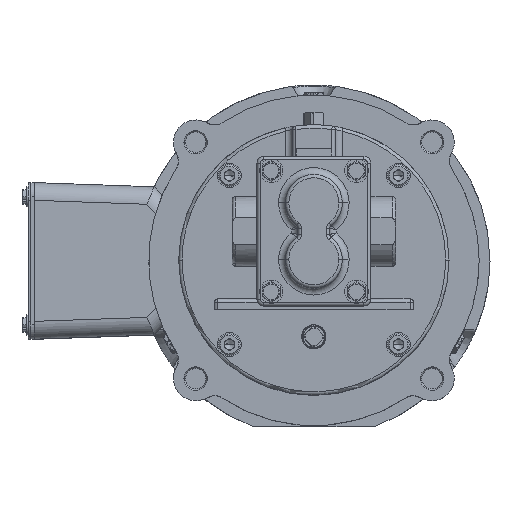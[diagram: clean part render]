
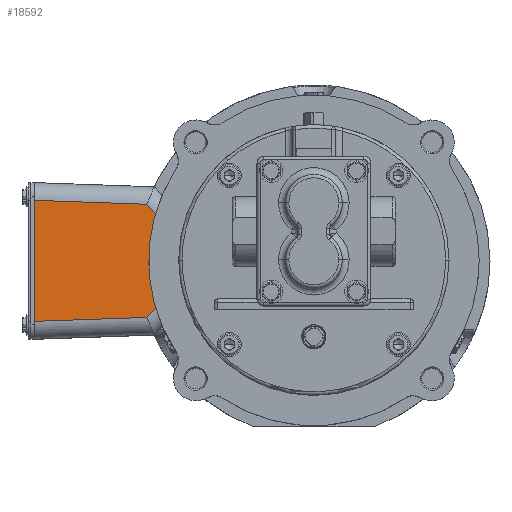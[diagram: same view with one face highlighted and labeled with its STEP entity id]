
A CAD part, top view. The second image highlights one B-rep face of the part: STEP entity #18592.
In plain terms, the highlighted planar face has unit normal (0.035, 0, 0.999).
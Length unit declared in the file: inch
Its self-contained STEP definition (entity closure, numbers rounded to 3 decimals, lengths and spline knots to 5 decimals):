
#241 = ORIENTED_EDGE ( 'NONE', *, *, #49727, .F. ) ;
#703 = DIRECTION ( 'NONE',  ( 0.999, 0.035, -0.035 ) ) ;
#2924 = EDGE_CURVE ( 'NONE', #6410, #6539, #29937, .T. ) ;
#3281 = CARTESIAN_POINT ( 'NONE',  ( -7.34757, -0.06021, -8.80359 ) ) ;
#4470 = ORIENTED_EDGE ( 'NONE', *, *, #23772, .T. ) ;
#5850 = CARTESIAN_POINT ( 'NONE',  ( -9.32475, -0.12925, -8.73455 ) ) ;
#6410 = VERTEX_POINT ( 'NONE', #36341 ) ;
#6539 = VERTEX_POINT ( 'NONE', #3281 ) ;
#8064 = CARTESIAN_POINT ( 'NONE',  ( -7.35487, 0.64745, -8.80334 ) ) ;
#9000 = VECTOR ( 'NONE', #703, 39.37008 ) ;
#10021 = LINE ( 'NONE', #52716, #44433 ) ;
#10230 = VERTEX_POINT ( 'NONE', #41067 ) ;
#11948 = EDGE_CURVE ( 'NONE', #22461, #10230, #29735, .T. ) ;
#14627 = EDGE_LOOP ( 'NONE', ( #17658, #241, #20083, #45761, #31308, #4470 ) ) ;
#16466 = DIRECTION ( 'NONE',  ( 0.999, 0., -0.035 ) ) ;
#17658 = ORIENTED_EDGE ( 'NONE', *, *, #2924, .T. ) ;
#18592 = ADVANCED_FACE ( 'NONE', ( #35734 ), #21591, .T. ) ;
#19648 = VECTOR ( 'NONE', #19822, 39.37008 ) ;
#19822 = DIRECTION ( 'NONE',  ( 0., -1., 0. ) ) ;
#20083 = ORIENTED_EDGE ( 'NONE', *, *, #41043, .F. ) ;
#21591 = PLANE ( 'NONE',  #59090 ) ;
#22461 = VERTEX_POINT ( 'NONE', #63144 ) ;
#22804 = VERTEX_POINT ( 'NONE', #52410 ) ;
#23772 = EDGE_CURVE ( 'NONE', #10230, #6410, #30424, .T. ) ;
#24923 = DIRECTION ( 'NONE',  ( -0.999, 0.035, 0.035 ) ) ;
#29606 = DIRECTION ( 'NONE',  ( -0.707, 0.707, 0.025 ) ) ;
#29735 = LINE ( 'NONE', #49295, #47118 ) ;
#29937 = LINE ( 'NONE', #5850, #9000 ) ;
#30424 = LINE ( 'NONE', #55095, #19648 ) ;
#31308 = ORIENTED_EDGE ( 'NONE', *, *, #11948, .T. ) ;
#32140 = CARTESIAN_POINT ( 'NONE',  ( -7.18809, 0.09927, -8.80916 ) ) ;
#32159 = CARTESIAN_POINT ( 'NONE',  ( -7.35487, 1.22043, -8.80334 ) ) ;
#35734 = FACE_OUTER_BOUND ( 'NONE', #14627, .T. ) ;
#36341 = CARTESIAN_POINT ( 'NONE',  ( -9.32475, -0.12925, -8.73455 ) ) ;
#36631 = CARTESIAN_POINT ( 'NONE',  ( -7.18809, 0.09927, -8.80916 ) ) ;
#36756 = LINE ( 'NONE', #42510, #43208 ) ;
#41043 = EDGE_CURVE ( 'NONE', #22804, #45426, #58244, .T. ) ;
#41067 = CARTESIAN_POINT ( 'NONE',  ( -9.32475, 1.99713, -8.73455 ) ) ;
#41478 = CARTESIAN_POINT ( 'NONE',  ( -9.32475, 2.30894, -8.73455 ) ) ;
#42510 = CARTESIAN_POINT ( 'NONE',  ( -7.21727, 0.07009, -8.80814 ) ) ;
#43208 = VECTOR ( 'NONE', #46384, 39.37008 ) ;
#44433 = VECTOR ( 'NONE', #29606, 39.37008 ) ;
#45426 = VERTEX_POINT ( 'NONE', #32140 ) ;
#45761 = ORIENTED_EDGE ( 'NONE', *, *, #54043, .T. ) ;
#46384 = DIRECTION ( 'NONE',  ( -0.707, -0.707, 0.025 ) ) ;
#47118 = VECTOR ( 'NONE', #24923, 39.37008 ) ;
#49295 = CARTESIAN_POINT ( 'NONE',  ( -7.34757, 1.92808, -8.80359 ) ) ;
#49727 = EDGE_CURVE ( 'NONE', #45426, #6539, #36756, .T. ) ;
#52410 = CARTESIAN_POINT ( 'NONE',  ( -7.18809, 1.7686, -8.80916 ) ) ;
#52716 = CARTESIAN_POINT ( 'NONE',  ( -7.18809, 1.7686, -8.80916 ) ) ;
#54043 = EDGE_CURVE ( 'NONE', #22804, #22461, #10021, .T. ) ;
#55095 = CARTESIAN_POINT ( 'NONE',  ( -9.32475, 2.30894, -8.73455 ) ) ;
#55277 = DIRECTION ( 'NONE',  ( 0.035, 0., 0.999 ) ) ;
#55569 = CARTESIAN_POINT ( 'NONE',  ( -7.18809, 1.7686, -8.80916 ) ) ;
#58244 =( BOUNDED_CURVE ( )  B_SPLINE_CURVE ( 3, ( #55569, #32159, #8064, #36631 ),
 .UNSPECIFIED., .F., .T. ) 
 B_SPLINE_CURVE_WITH_KNOTS ( ( 4, 4 ),
 ( 2.84624, 3.43694 ),
 .UNSPECIFIED. ) 
 CURVE ( )  GEOMETRIC_REPRESENTATION_ITEM ( )  RATIONAL_B_SPLINE_CURVE ( ( 1., 0.971, 0.971, 1. ) ) 
 REPRESENTATION_ITEM ( '' )  );
#59090 = AXIS2_PLACEMENT_3D ( 'NONE', #41478, #55277, #16466 ) ;
#63144 = CARTESIAN_POINT ( 'NONE',  ( -7.34757, 1.92808, -8.80359 ) ) ;
